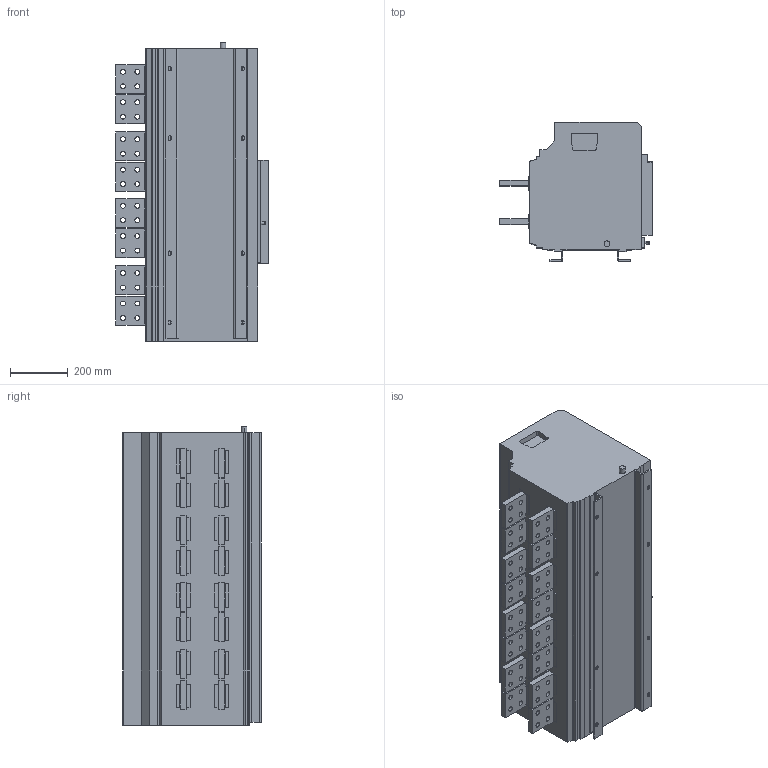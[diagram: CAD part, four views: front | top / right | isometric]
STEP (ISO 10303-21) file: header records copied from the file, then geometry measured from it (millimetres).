
FILE_DESCRIPTION (( 'STEP AP203' ), '1' );
FILE_NAME ('BWA-6300V-Drawout-4P-4000~6300A.STEP', '2024-11-08T05:13:32', ( '' ), ( '' ), 'SwSTEP 2.0', 'SolidWorks 2017', '' );
FILE_SCHEMA (( 'CONFIG_CONTROL_DESIGN' ));
Length unit declared in the file: millimetre
Products named in the file (1): BWA-6300V-Drawout-4P-4000~6300A
Bounding box: 528 x 480 x 1031 mm (x, y, z)
Volume: 169915650.6 mm3; surface area: 2890723.6 mm2
Topology: 1 solids, 1 shells, 1177 faces, 3178 edges, 2118 vertices
Faces by surface type: plane 768, bspline 226, cylinder 181, torus 2
Entity records: 49015 total; most frequent: CARTESIAN_POINT 20204, ORIENTED_EDGE 6356, DIRECTION 4996, EDGE_CURVE 3178, VECTOR 2360, LINE 2360, VERTEX_POINT 2118, EDGE_LOOP 1436
